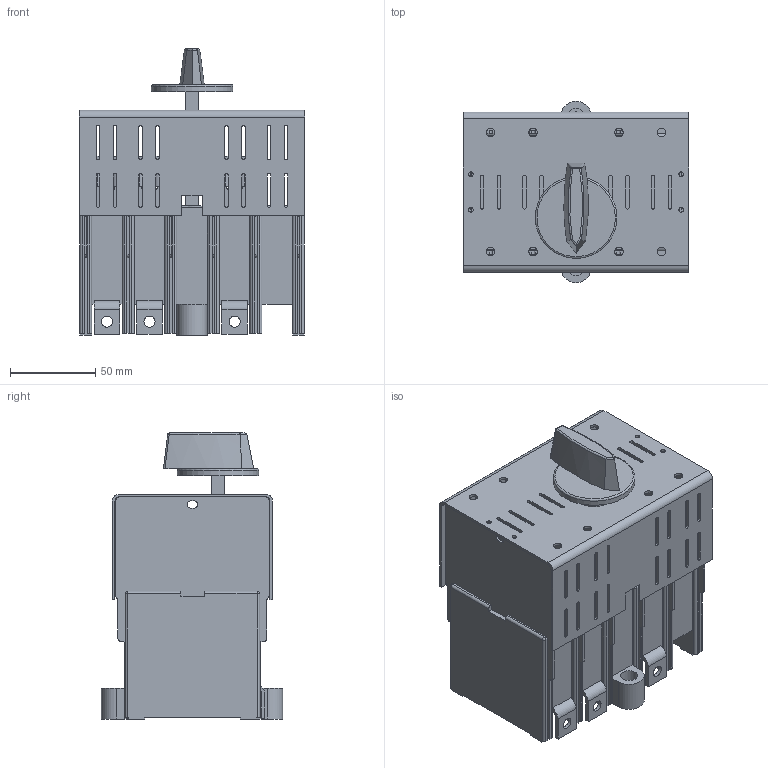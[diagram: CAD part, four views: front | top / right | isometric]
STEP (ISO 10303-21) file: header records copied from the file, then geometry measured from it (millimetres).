
FILE_DESCRIPTION(/* description */ (''),/* implementation_level */ '2;1');
FILE_NAME(/* name */ 'RAB 000 P3 C-R.stp',/* time_stamp */ '2021-08-19T10:49:40+02:00',/* author */ (''),/* organization */ (''),/* preprocessor_version */ 'ST-DEVELOPER v18.1',/* originating_system */ 'SIEMENS PLM Software NX 1965',/* authorisation */ '');
FILE_SCHEMA (('AUTOMOTIVE_DESIGN { 1 0 10303 214 3 1 1 1 }'));
Length unit declared in the file: millimetre
Products named in the file (1): RAB 000 P3 C-R_stp
Bounding box: 132.5 x 106.51 x 168 mm (x, y, z)
Volume: 758707.1 mm3; surface area: 214257.4 mm2
Topology: 1 solids, 1 shells, 1040 faces, 2939 edges, 1881 vertices
Faces by surface type: plane 660, cylinder 347, sphere 25, bspline 7, torus 1
Full cylindrical faces by diameter (mm): 2.7 x4, 5 x8, 5.8 x2, 6.5 x6, 10 x2, 20 x1, 48 x1
Entity records: 33538 total; most frequent: CARTESIAN_POINT 6284, ORIENTED_EDGE 5752, DIRECTION 5532, EDGE_CURVE 2876, LINE 2094, VECTOR 2094, VERTEX_POINT 1869, AXIS2_PLACEMENT_3D 1719
